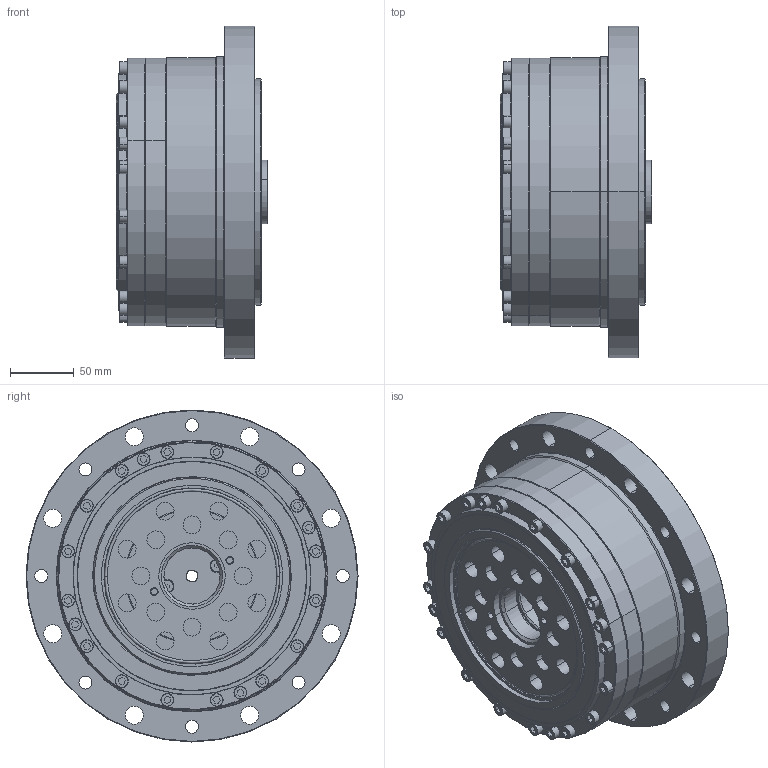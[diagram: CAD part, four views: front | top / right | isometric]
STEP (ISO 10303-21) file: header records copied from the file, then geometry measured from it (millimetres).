
FILE_DESCRIPTION (( 'STEP AP203' ), '1' );
FILE_NAME ('FCS-65-XXX-AJ.STEP', '2023-01-16T09:04:09', ( '微软用户' ), ( '微软中国' ), 'SwSTEP 2.0', 'SolidWorks 2016', '' );
FILE_SCHEMA (( 'CONFIG_CONTROL_DESIGN' ));
Length unit declared in the file: millimetre
Products named in the file (1): FCS-65-XXX-AJ
Bounding box: 118.5 x 260 x 260 mm (x, y, z)
Volume: 2781375.5 mm3; surface area: 730939.9 mm2
Topology: 70 solids, 70 shells, 1393 faces, 3232 edges, 1950 vertices
Faces by surface type: cylinder 533, plane 404, cone 246, torus 210
Entity records: 39377 total; most frequent: DIRECTION 7616, CARTESIAN_POINT 6460, ORIENTED_EDGE 6208, AXIS2_PLACEMENT_3D 3122, EDGE_CURVE 3104, VERTEX_POINT 1950, CIRCLE 1728, EDGE_LOOP 1718
